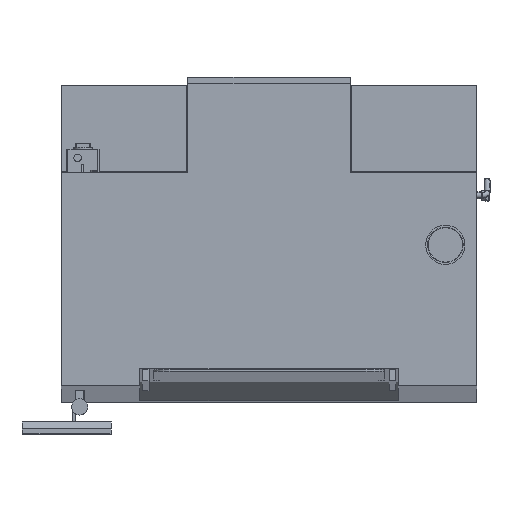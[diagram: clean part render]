
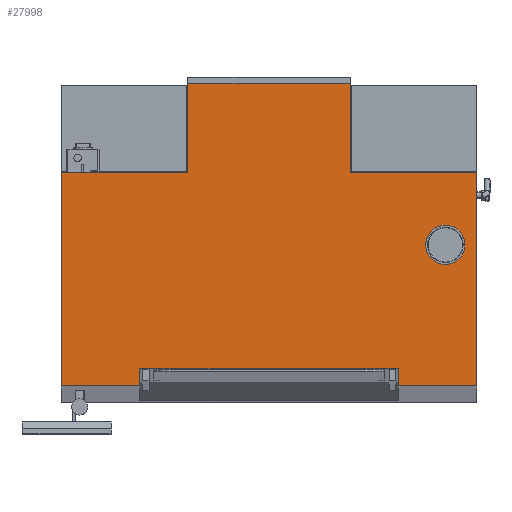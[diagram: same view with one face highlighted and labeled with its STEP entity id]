
A CAD part, top view. The second image highlights one B-rep face of the part: STEP entity #27998.
In plain terms, the highlighted planar face has unit normal (0, 0, 1).
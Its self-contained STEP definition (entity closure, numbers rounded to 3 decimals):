
#171=FACE_BOUND('',#4361,.T.);
#1347=CIRCLE('',#29226,76.5);
#1348=CIRCLE('',#29227,76.5);
#2799=FACE_OUTER_BOUND('',#4360,.T.);
#4360=EDGE_LOOP('',(#23900,#23901,#23902,#23903,#23904,#23905,#23906,#23907,
#23908,#23909,#23910,#23911));
#4361=EDGE_LOOP('',(#23912,#23913));
#5822=LINE('',#41239,#8765);
#7214=LINE('',#46458,#10157);
#7245=LINE('',#46760,#10188);
#7246=LINE('',#46761,#10189);
#7247=LINE('',#46763,#10190);
#7248=LINE('',#46765,#10191);
#7249=LINE('',#46767,#10192);
#7250=LINE('',#46768,#10193);
#7251=LINE('',#46770,#10194);
#7252=LINE('',#46772,#10195);
#7253=LINE('',#46774,#10196);
#7254=LINE('',#46775,#10197);
#8765=VECTOR('',#31624,10.);
#10157=VECTOR('',#34102,10.);
#10188=VECTOR('',#34375,10.);
#10189=VECTOR('',#34376,10.);
#10190=VECTOR('',#34377,10.);
#10191=VECTOR('',#34378,10.);
#10192=VECTOR('',#34379,10.);
#10193=VECTOR('',#34380,10.);
#10194=VECTOR('',#34381,10.);
#10195=VECTOR('',#34382,10.);
#10196=VECTOR('',#34383,10.);
#10197=VECTOR('',#34384,10.);
#11546=VERTEX_POINT('',#41236);
#11547=VERTEX_POINT('',#41238);
#12686=VERTEX_POINT('',#46455);
#12687=VERTEX_POINT('',#46457);
#12754=VERTEX_POINT('',#46752);
#12755=VERTEX_POINT('',#46754);
#12756=VERTEX_POINT('',#46758);
#12757=VERTEX_POINT('',#46759);
#12758=VERTEX_POINT('',#46762);
#12759=VERTEX_POINT('',#46764);
#12760=VERTEX_POINT('',#46766);
#12761=VERTEX_POINT('',#46769);
#12762=VERTEX_POINT('',#46771);
#12763=VERTEX_POINT('',#46773);
#14697=EDGE_CURVE('',#11547,#11546,#5822,.T.);
#16399=EDGE_CURVE('',#12686,#12687,#7214,.T.);
#16503=EDGE_CURVE('',#12755,#12754,#1347,.T.);
#16504=EDGE_CURVE('',#12754,#12755,#1348,.T.);
#16505=EDGE_CURVE('',#12756,#12757,#7245,.T.);
#16506=EDGE_CURVE('',#12757,#12687,#7246,.T.);
#16507=EDGE_CURVE('',#12686,#12758,#7247,.T.);
#16508=EDGE_CURVE('',#12758,#12759,#7248,.T.);
#16509=EDGE_CURVE('',#12759,#12760,#7249,.T.);
#16510=EDGE_CURVE('',#12760,#11547,#7250,.T.);
#16511=EDGE_CURVE('',#12761,#11546,#7251,.T.);
#16512=EDGE_CURVE('',#12761,#12762,#7252,.T.);
#16513=EDGE_CURVE('',#12762,#12763,#7253,.T.);
#16514=EDGE_CURVE('',#12763,#12756,#7254,.T.);
#23900=ORIENTED_EDGE('',*,*,#16505,.T.);
#23901=ORIENTED_EDGE('',*,*,#16506,.T.);
#23902=ORIENTED_EDGE('',*,*,#16399,.F.);
#23903=ORIENTED_EDGE('',*,*,#16507,.T.);
#23904=ORIENTED_EDGE('',*,*,#16508,.T.);
#23905=ORIENTED_EDGE('',*,*,#16509,.T.);
#23906=ORIENTED_EDGE('',*,*,#16510,.T.);
#23907=ORIENTED_EDGE('',*,*,#14697,.T.);
#23908=ORIENTED_EDGE('',*,*,#16511,.F.);
#23909=ORIENTED_EDGE('',*,*,#16512,.T.);
#23910=ORIENTED_EDGE('',*,*,#16513,.T.);
#23911=ORIENTED_EDGE('',*,*,#16514,.T.);
#23912=ORIENTED_EDGE('',*,*,#16503,.T.);
#23913=ORIENTED_EDGE('',*,*,#16504,.T.);
#25359=PLANE('',#29228);
#27998=ADVANCED_FACE('',(#2799,#171),#25359,.T.);
#29226=AXIS2_PLACEMENT_3D('',#46755,#34369,#34370);
#29227=AXIS2_PLACEMENT_3D('',#46756,#34371,#34372);
#29228=AXIS2_PLACEMENT_3D('',#46757,#34373,#34374);
#31624=DIRECTION('',(-1.,0.,0.));
#34102=DIRECTION('',(0.,-1.,0.));
#34369=DIRECTION('center_axis',(0.,0.,-1.));
#34370=DIRECTION('ref_axis',(1.,0.,0.));
#34371=DIRECTION('center_axis',(0.,0.,-1.));
#34372=DIRECTION('ref_axis',(1.,0.,0.));
#34373=DIRECTION('center_axis',(0.,0.,1.));
#34374=DIRECTION('ref_axis',(0.,-1.,0.));
#34375=DIRECTION('',(0.,-1.,0.));
#34376=DIRECTION('',(1.,0.,0.));
#34377=DIRECTION('',(-1.,0.,0.));
#34378=DIRECTION('',(0.,1.,0.));
#34379=DIRECTION('',(-1.,0.,0.));
#34380=DIRECTION('',(0.,-1.,0.));
#34381=DIRECTION('',(0.,1.,0.));
#34382=DIRECTION('',(1.,0.,0.));
#34383=DIRECTION('',(0.,1.,0.));
#34384=DIRECTION('',(1.,0.,0.));
#41236=CARTESIAN_POINT('',(-900.,403.,1956.));
#41238=CARTESIAN_POINT('',(-352.,403.,1956.));
#41239=CARTESIAN_POINT('',(-176.,403.,1956.));
#46455=CARTESIAN_POINT('',(900.,403.,1956.));
#46457=CARTESIAN_POINT('',(900.,-521.496,1956.));
#46458=CARTESIAN_POINT('',(900.,-521.496,1956.));
#46752=CARTESIAN_POINT('',(687.5,90.,1956.));
#46754=CARTESIAN_POINT('',(840.5,90.,1956.));
#46755=CARTESIAN_POINT('Origin',(764.,90.,1956.));
#46756=CARTESIAN_POINT('Origin',(764.,90.,1956.));
#46757=CARTESIAN_POINT('Origin',(0.,790.,1956.));
#46758=CARTESIAN_POINT('',(560.,-446.425,1956.));
#46759=CARTESIAN_POINT('',(560.,-521.496,1956.));
#46760=CARTESIAN_POINT('',(560.,144.982,1956.));
#46761=CARTESIAN_POINT('',(0.,-521.496,1956.));
#46762=CARTESIAN_POINT('',(352.,403.,1956.));
#46763=CARTESIAN_POINT('',(450.,403.,1956.));
#46764=CARTESIAN_POINT('',(352.,790.,1956.));
#46765=CARTESIAN_POINT('',(352.,596.5,1956.));
#46766=CARTESIAN_POINT('',(-352.,790.,1956.));
#46767=CARTESIAN_POINT('',(0.,790.,1956.));
#46768=CARTESIAN_POINT('',(-352.,790.,1956.));
#46769=CARTESIAN_POINT('',(-900.,-521.496,1956.));
#46770=CARTESIAN_POINT('',(-900.,-521.496,1956.));
#46771=CARTESIAN_POINT('',(-560.,-521.496,1956.));
#46772=CARTESIAN_POINT('',(0.,-521.496,1956.));
#46773=CARTESIAN_POINT('',(-560.,-446.425,1956.));
#46774=CARTESIAN_POINT('',(-560.,106.99,1956.));
#46775=CARTESIAN_POINT('',(0.,-446.425,1956.));
